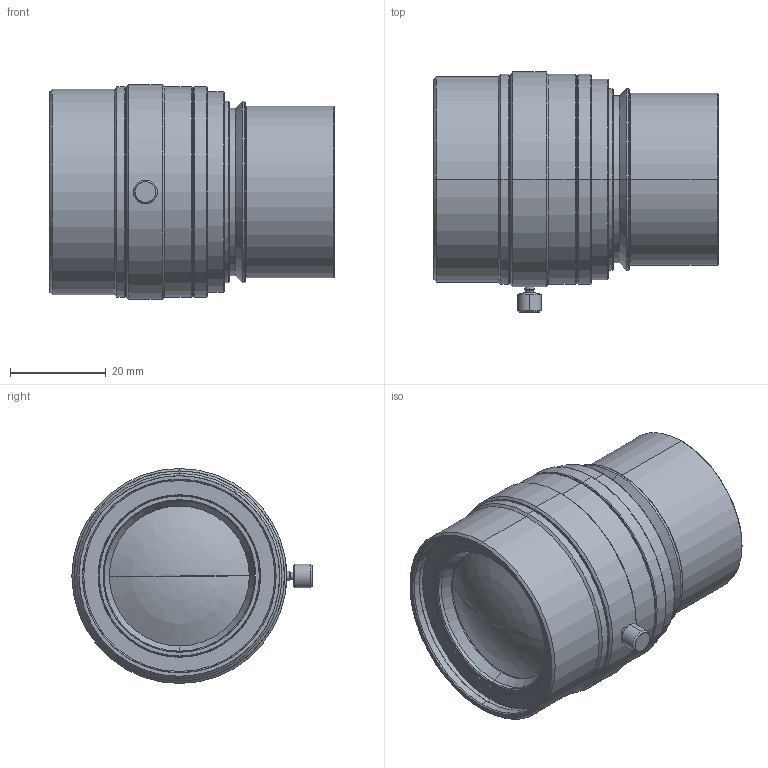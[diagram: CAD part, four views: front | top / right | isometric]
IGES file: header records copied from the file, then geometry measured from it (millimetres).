
Start section: SolidWorks IGES file using analytic representation for surfaces
Bounding box: 59.5 x 50.3 x 45 mm (x, y, z)
Surface area: 12558.1 mm2 (no closed solid volume)
Topology: 0 solids, 0 shells, 124 faces, 2358 edges, 2356 vertices
Faces by surface type: revolution 108, bspline 16
